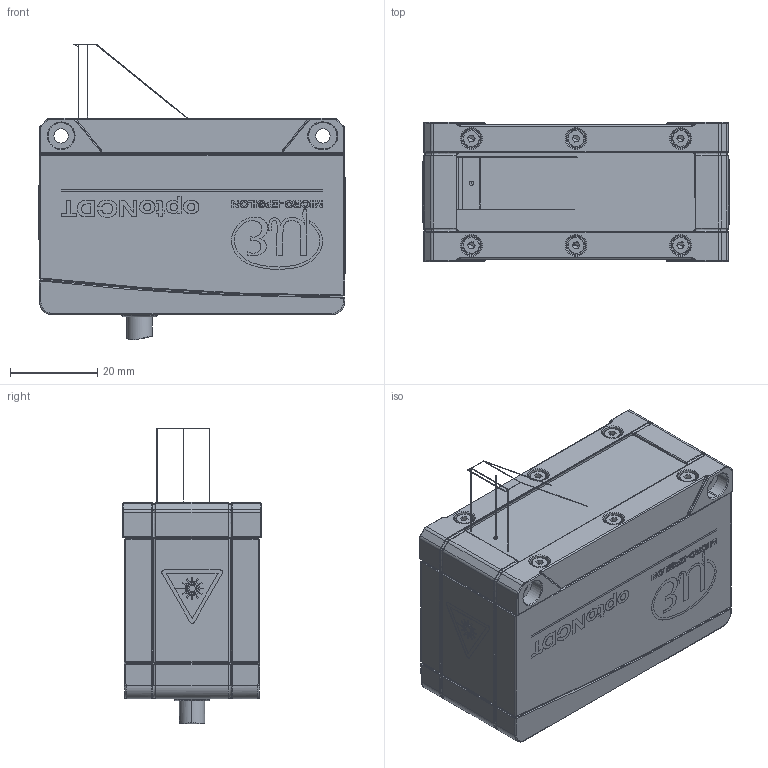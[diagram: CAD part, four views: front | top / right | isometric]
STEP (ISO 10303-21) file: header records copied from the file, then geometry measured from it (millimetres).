
FILE_DESCRIPTION (( 'STEP AP214' ), '1' );
FILE_NAME ('free_space_optoNCDT_1900-02.STEP', '2020-05-06T14:20:55', ( '' ), ( '' ), 'SwSTEP 2.0', 'SolidWorks 2018', '' );
FILE_SCHEMA (( 'AUTOMOTIVE_DESIGN' ));
Length unit declared in the file: millimetre
Products named in the file (2): free_space_optoNCDT_1900-02
Bounding box: 70.19 x 32 x 67.84 mm (x, y, z)
Volume: 95763.9 mm3; surface area: 15450.8 mm2
Topology: 4 solids, 4 shells, 2226 faces, 5816 edges, 3716 vertices
Faces by surface type: plane 964, bspline 813, cylinder 267, torus 87, cone 87, sphere 8
Entity records: 107225 total; most frequent: CARTESIAN_POINT 33891, ORIENTED_EDGE 11576, DIRECTION 7580, EDGE_CURVE 5788, VERTEX_POINT 3716, VECTOR 3302, LINE 3302, EDGE_LOOP 2378
